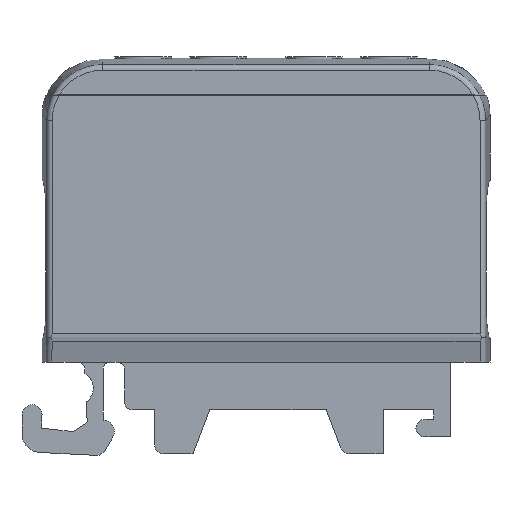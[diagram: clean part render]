
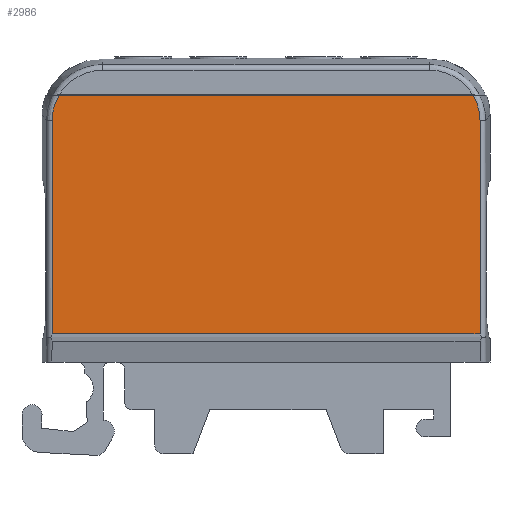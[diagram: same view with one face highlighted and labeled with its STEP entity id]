
A CAD part, front view. The second image highlights one B-rep face of the part: STEP entity #2986.
In plain terms, the highlighted planar face has unit normal (0, -1, 0).
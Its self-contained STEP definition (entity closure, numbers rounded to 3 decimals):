
#62=ELLIPSE('',#3255,5.427,5.4);
#63=ELLIPSE('',#3257,5.427,5.4);
#920=ORIENTED_EDGE('',*,*,#1443,.F.);
#921=ORIENTED_EDGE('',*,*,#1444,.T.);
#922=ORIENTED_EDGE('',*,*,#1445,.F.);
#923=ORIENTED_EDGE('',*,*,#1406,.F.);
#924=ORIENTED_EDGE('',*,*,#1404,.T.);
#925=ORIENTED_EDGE('',*,*,#1401,.F.);
#1401=EDGE_CURVE('',#1723,#1724,#2032,.T.);
#1404=EDGE_CURVE('',#1725,#1724,#2033,.T.);
#1406=EDGE_CURVE('',#1725,#1726,#2034,.F.);
#1443=EDGE_CURVE('',#1753,#1723,#62,.F.);
#1444=EDGE_CURVE('',#1753,#1754,#2045,.T.);
#1445=EDGE_CURVE('',#1726,#1754,#63,.F.);
#1723=VERTEX_POINT('',#4870);
#1724=VERTEX_POINT('',#4871);
#1725=VERTEX_POINT('',#4879);
#1726=VERTEX_POINT('',#4886);
#1753=VERTEX_POINT('',#5016);
#1754=VERTEX_POINT('',#5020);
#2032=LINE('',#4869,#2307);
#2033=LINE('',#4878,#2308);
#2034=LINE('',#4885,#2309);
#2045=LINE('',#5019,#2320);
#2307=VECTOR('',#3935,1000.);
#2308=VECTOR('',#3940,1000.);
#2309=VECTOR('',#3943,1000.);
#2320=VECTOR('',#4016,1000.);
#2485=EDGE_LOOP('',(#920,#921,#922,#923,#924,#925));
#2686=FACE_BOUND('',#2485,.T.);
#2831=PLANE('',#3256);
#2986=ADVANCED_FACE('',(#2686),#2831,.F.);
#3255=AXIS2_PLACEMENT_3D('',#5017,#4012,#4013);
#3256=AXIS2_PLACEMENT_3D('',#5018,#4014,#4015);
#3257=AXIS2_PLACEMENT_3D('',#5021,#4017,#4018);
#3935=DIRECTION('',(0.,0.,-1.));
#3940=DIRECTION('',(1.,0.,0.));
#3943=DIRECTION('',(0.,0.,-1.));
#4012=DIRECTION('',(0.,-1.,0.));
#4013=DIRECTION('',(-0.581,0.,-0.814));
#4014=DIRECTION('',(0.,1.,0.));
#4015=DIRECTION('',(0.,0.,-1.));
#4016=DIRECTION('',(-1.,0.,0.));
#4017=DIRECTION('',(0.,-1.,0.));
#4018=DIRECTION('',(0.581,0.,-0.814));
#4869=CARTESIAN_POINT('',(22.834,-8.65,-18.75));
#4870=CARTESIAN_POINT('',(22.834,-8.65,12.104));
#4871=CARTESIAN_POINT('',(22.834,-8.65,-10.643));
#4878=CARTESIAN_POINT('',(22.832,-8.65,-10.643));
#4879=CARTESIAN_POINT('',(-22.834,-8.65,-10.643));
#4885=CARTESIAN_POINT('',(-22.834,-8.65,-18.75));
#4886=CARTESIAN_POINT('',(-22.834,-8.65,12.104));
#5016=CARTESIAN_POINT('',(22.085,-8.65,14.85));
#5017=CARTESIAN_POINT('',(17.425,-8.65,12.079));
#5018=CARTESIAN_POINT('',(-8.461,-8.65,-18.75));
#5019=CARTESIAN_POINT('',(-8.461,-8.65,14.85));
#5020=CARTESIAN_POINT('',(-22.085,-8.65,14.85));
#5021=CARTESIAN_POINT('',(-17.425,-8.65,12.079));
